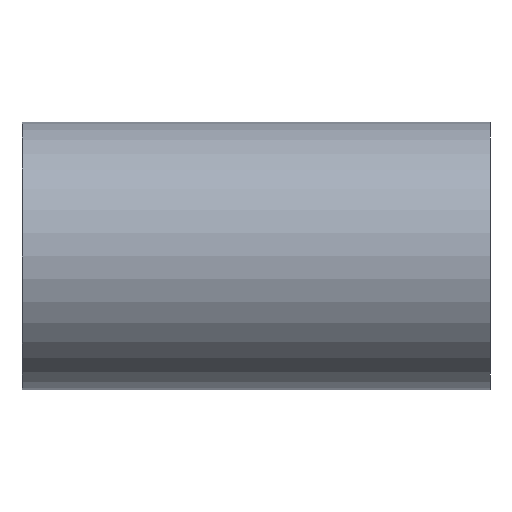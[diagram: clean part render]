
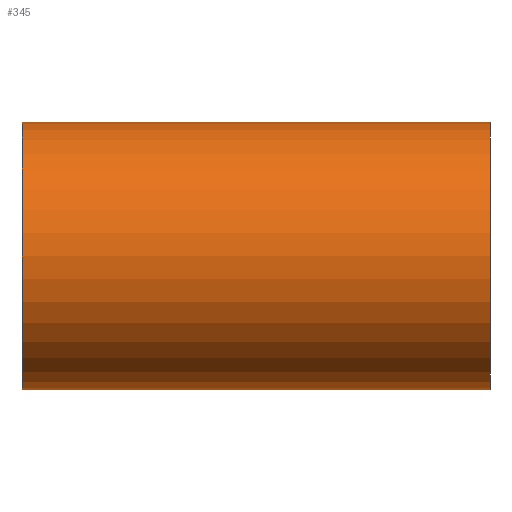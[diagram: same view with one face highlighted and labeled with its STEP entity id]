
A CAD part, front view. The second image highlights one B-rep face of the part: STEP entity #345.
In plain terms, the highlighted cylindrical face has radius 101.6 mm (diameter 203.2 mm), a partial arc.
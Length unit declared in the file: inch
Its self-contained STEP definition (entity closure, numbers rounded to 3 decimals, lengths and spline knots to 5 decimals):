
#2 = CARTESIAN_POINT ( 'NONE',  ( -7., 0., 0. ) ) ;
#11 = VERTEX_POINT ( 'NONE', #264 ) ;
#14 = CARTESIAN_POINT ( 'NONE',  ( -7., 0., -4. ) ) ;
#29 = CARTESIAN_POINT ( 'NONE',  ( -7., 0., 4. ) ) ;
#30 = DIRECTION ( 'NONE',  ( 0., 0., 1. ) ) ;
#37 = CARTESIAN_POINT ( 'NONE',  ( 7., 0., 4. ) ) ;
#39 = ORIENTED_EDGE ( 'NONE', *, *, #376, .F. ) ;
#101 = LINE ( 'NONE', #433, #167 ) ;
#103 = LINE ( 'NONE', #154, #205 ) ;
#106 = DIRECTION ( 'NONE',  ( -1., 0., 0. ) ) ;
#114 = CARTESIAN_POINT ( 'NONE',  ( 0., 0., -4. ) ) ;
#120 = CARTESIAN_POINT ( 'NONE',  ( 7., 0., 0. ) ) ;
#121 = VECTOR ( 'NONE', #106, 39.37008 ) ;
#122 = LINE ( 'NONE', #267, #121 ) ;
#133 = CIRCLE ( 'NONE', #274, 4. ) ;
#141 = CIRCLE ( 'NONE', #290, 4. ) ;
#142 = VECTOR ( 'NONE', #424, 39.37008 ) ;
#149 = LINE ( 'NONE', #37, #142 ) ;
#154 = CARTESIAN_POINT ( 'NONE',  ( 7., 0., -4. ) ) ;
#167 = VECTOR ( 'NONE', #283, 39.37008 ) ;
#170 = CYLINDRICAL_SURFACE ( 'NONE', #333, 4. ) ;
#178 = FACE_OUTER_BOUND ( 'NONE', #416, .T. ) ;
#181 = CARTESIAN_POINT ( 'NONE',  ( 7., 0., 4. ) ) ;
#192 = DIRECTION ( 'NONE',  ( -1., 0., 0. ) ) ;
#204 = DIRECTION ( 'NONE',  ( 0., 0., -1. ) ) ;
#205 = VECTOR ( 'NONE', #192, 39.37008 ) ;
#219 = VERTEX_POINT ( 'NONE', #29 ) ;
#232 = CARTESIAN_POINT ( 'NONE',  ( 7., 0., 0. ) ) ;
#245 = ORIENTED_EDGE ( 'NONE', *, *, #374, .F. ) ;
#251 = ORIENTED_EDGE ( 'NONE', *, *, #422, .F. ) ;
#261 = ORIENTED_EDGE ( 'NONE', *, *, #418, .T. ) ;
#264 = CARTESIAN_POINT ( 'NONE',  ( 0., 0., 4. ) ) ;
#267 = CARTESIAN_POINT ( 'NONE',  ( 7., 0., 4. ) ) ;
#271 = VERTEX_POINT ( 'NONE', #114 ) ;
#274 = AXIS2_PLACEMENT_3D ( 'NONE', #120, #339, #443 ) ;
#283 = DIRECTION ( 'NONE',  ( -1., 0., 0. ) ) ;
#285 = VERTEX_POINT ( 'NONE', #14 ) ;
#290 = AXIS2_PLACEMENT_3D ( 'NONE', #2, #414, #204 ) ;
#299 = ORIENTED_EDGE ( 'NONE', *, *, #421, .T. ) ;
#333 = AXIS2_PLACEMENT_3D ( 'NONE', #232, #434, #30 ) ;
#334 = CARTESIAN_POINT ( 'NONE',  ( 7., 0., -4. ) ) ;
#335 = VERTEX_POINT ( 'NONE', #181 ) ;
#339 = DIRECTION ( 'NONE',  ( 1., 0., 0. ) ) ;
#345 = ADVANCED_FACE ( 'NONE', ( #178 ), #170, .T. ) ;
#368 = ORIENTED_EDGE ( 'NONE', *, *, #444, .T. ) ;
#374 = EDGE_CURVE ( 'NONE', #402, #271, #101, .T. ) ;
#376 = EDGE_CURVE ( 'NONE', #271, #285, #103, .T. ) ;
#402 = VERTEX_POINT ( 'NONE', #334 ) ;
#414 = DIRECTION ( 'NONE',  ( 1., 0., 0. ) ) ;
#416 = EDGE_LOOP ( 'NONE', ( #245, #251, #368, #261, #299, #39 ) ) ;
#418 = EDGE_CURVE ( 'NONE', #11, #219, #149, .T. ) ;
#421 = EDGE_CURVE ( 'NONE', #219, #285, #141, .T. ) ;
#422 = EDGE_CURVE ( 'NONE', #335, #402, #133, .T. ) ;
#424 = DIRECTION ( 'NONE',  ( -1., 0., 0. ) ) ;
#433 = CARTESIAN_POINT ( 'NONE',  ( 7., 0., -4. ) ) ;
#434 = DIRECTION ( 'NONE',  ( -1., 0., 0. ) ) ;
#443 = DIRECTION ( 'NONE',  ( 0., 0., -1. ) ) ;
#444 = EDGE_CURVE ( 'NONE', #335, #11, #122, .T. ) ;
